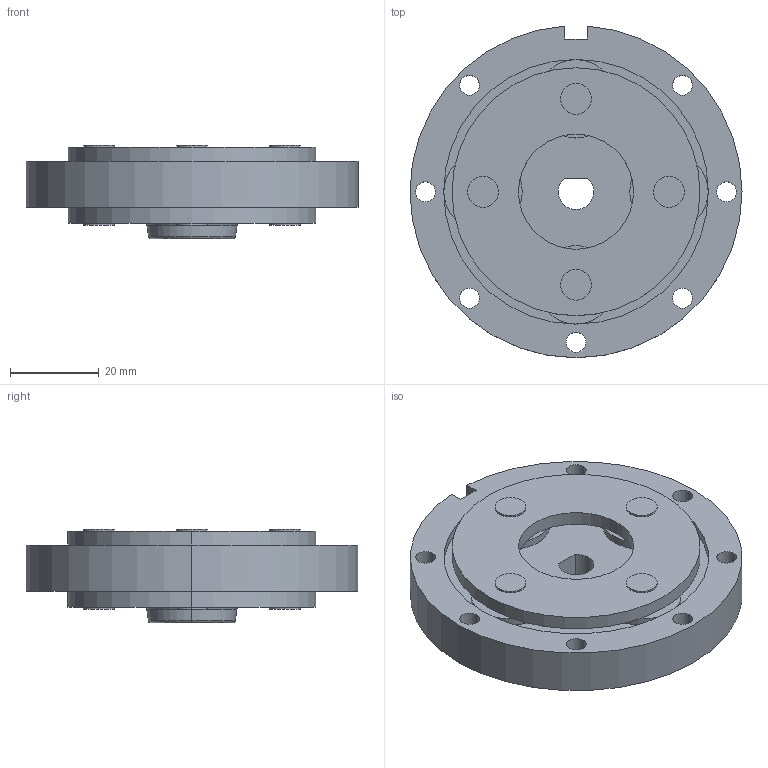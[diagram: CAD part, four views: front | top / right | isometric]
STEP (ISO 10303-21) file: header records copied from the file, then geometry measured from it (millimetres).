
FILE_DESCRIPTION (( 'STEP AP203' ), '1' );
FILE_NAME ('LGU75-3SAD.step', '2021-07-23T02:25:04', ( '' ), ( '' ), 'SwSTEP 2.0', 'SolidWorks 2021', '' );
FILE_SCHEMA (( 'CONFIG_CONTROL_DESIGN' ));
Length unit declared in the file: millimetre
Products named in the file (1): LGU75-3SAD
Bounding box: 75 x 74.92 x 21.1 mm (x, y, z)
Volume: 52271.2 mm3; surface area: 23990.5 mm2
Topology: 1 solids, 1 shells, 269 faces, 728 edges, 484 vertices
Faces by surface type: cylinder 234, plane 29, torus 4, cone 2
Entity records: 8891 total; most frequent: DIRECTION 1748, CARTESIAN_POINT 1482, ORIENTED_EDGE 1456, AXIS2_PLACEMENT_3D 750, EDGE_CURVE 728, VERTEX_POINT 484, CIRCLE 480, EDGE_LOOP 324
